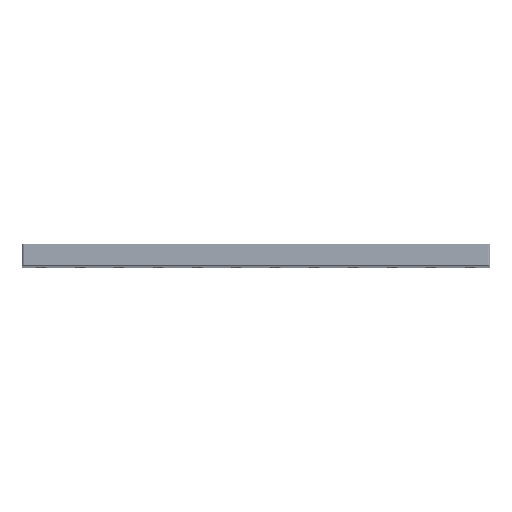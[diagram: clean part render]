
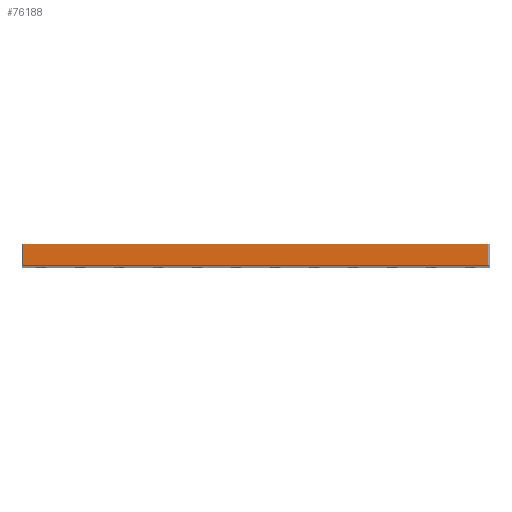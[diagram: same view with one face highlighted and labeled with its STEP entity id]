
A CAD part, top view. The second image highlights one B-rep face of the part: STEP entity #76188.
In plain terms, the highlighted planar face has unit normal (0, 0, 1).
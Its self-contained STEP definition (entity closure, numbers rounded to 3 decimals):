
#27841=CARTESIAN_POINT('',(-148.5,0.3,450.));
#27849=CARTESIAN_POINT('',(148.5,0.3,450.));
#27890=CARTESIAN_POINT('',(-148.5,13.7,450.));
#27897=DIRECTION('',(0.,-1.,0.));
#27898=VECTOR('',#27897,13.4);
#27899=CARTESIAN_POINT('',(-148.5,13.7,450.));
#27900=LINE('',#27899,#27898);
#27901=DIRECTION('',(1.,0.,0.));
#27902=VECTOR('',#27901,297.);
#27903=CARTESIAN_POINT('',(-148.5,13.7,450.));
#27904=LINE('',#27903,#27902);
#27905=DIRECTION('',(0.,-1.,0.));
#27906=VECTOR('',#27905,13.4);
#27907=CARTESIAN_POINT('',(148.5,13.7,450.));
#27908=LINE('',#27907,#27906);
#27909=DIRECTION('',(-1.,0.,0.));
#27910=VECTOR('',#27909,297.);
#27911=CARTESIAN_POINT('',(148.5,0.3,450.));
#27912=LINE('',#27911,#27910);
#35156=VERTEX_POINT('',#27841);
#35164=VERTEX_POINT('',#27890);
#35177=VERTEX_POINT('',#27849);
#35178=CARTESIAN_POINT('',(148.5,13.7,450.));
#35179=VERTEX_POINT('',#35178);
#76177=CARTESIAN_POINT('',(-150.,0.,450.));
#76178=DIRECTION('',(0.,0.,1.));
#76179=DIRECTION('',(1.,0.,0.));
#76180=AXIS2_PLACEMENT_3D('',#76177,#76178,#76179);
#76181=PLANE('',#76180);
#76182=ORIENTED_EDGE('',*,*,#76120,.F.);
#76183=ORIENTED_EDGE('',*,*,#76172,.T.);
#76184=ORIENTED_EDGE('',*,*,#76078,.T.);
#76185=ORIENTED_EDGE('',*,*,#76098,.T.);
#76186=EDGE_LOOP('',(#76182,#76183,#76184,#76185));
#76187=FACE_OUTER_BOUND('',#76186,.F.);
#76188=ADVANCED_FACE('',(#76187),#76181,.T.);
#76078=EDGE_CURVE('',#35179,#35177,#27908,.T.);
#76098=EDGE_CURVE('',#35177,#35156,#27912,.T.);
#76120=EDGE_CURVE('',#35164,#35156,#27900,.T.);
#76172=EDGE_CURVE('',#35164,#35179,#27904,.T.);
